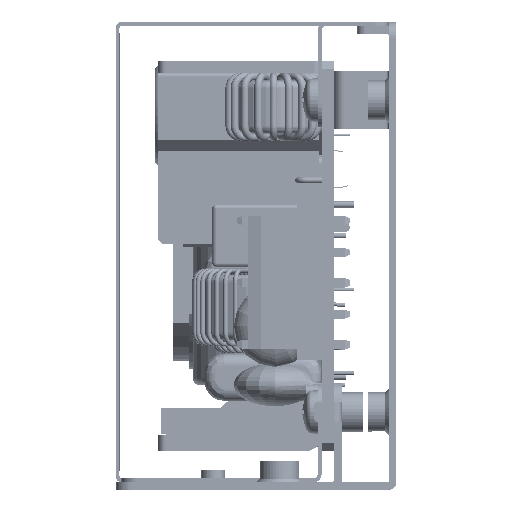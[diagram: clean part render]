
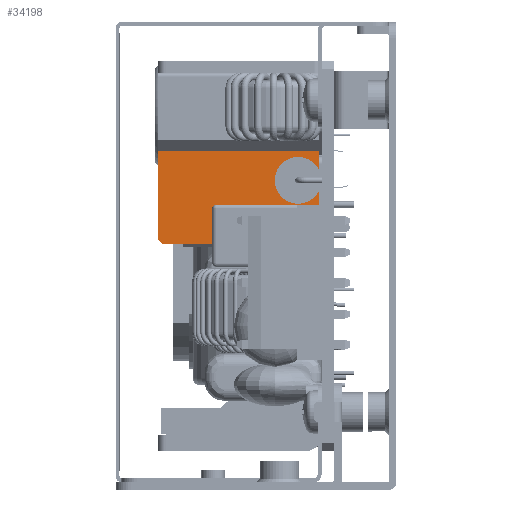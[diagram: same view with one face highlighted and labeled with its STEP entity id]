
A CAD part, left-side view. The second image highlights one B-rep face of the part: STEP entity #34198.
In plain terms, the highlighted planar face has unit normal (-1, 0, 0).
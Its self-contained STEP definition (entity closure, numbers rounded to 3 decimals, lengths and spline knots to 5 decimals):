
#562=DIRECTION('',(0.,0.,1.));
#563=VECTOR('',#562,0.12992);
#564=CARTESIAN_POINT('',(-0.86024,0.37795,
-0.3937));
#565=LINE('',#564,#563);
#9512=DIRECTION('',(0.,1.,0.));
#9513=VECTOR('',#9512,0.01181);
#9514=CARTESIAN_POINT('',(-0.86024,0.37795,
-0.26378));
#9515=LINE('',#9514,#9513);
#9524=CARTESIAN_POINT('',(-0.86024,0.41732,
-0.3937));
#9525=DIRECTION('',(-1.,0.,0.));
#9526=DIRECTION('',(0.,0.,-1.));
#9527=AXIS2_PLACEMENT_3D('',#9524,#9525,#9526);
#9529=DIRECTION('',(0.,-1.,0.));
#9530=VECTOR('',#9529,0.74803);
#9531=CARTESIAN_POINT('',(-0.86024,1.16535,
-0.43307));
#9532=LINE('',#9531,#9530);
#9533=CARTESIAN_POINT('',(-0.86024,1.16535,
-0.3937));
#9534=DIRECTION('',(-1.,0.,0.));
#9535=DIRECTION('',(0.,1.,0.));
#9536=AXIS2_PLACEMENT_3D('',#9533,#9534,#9535);
#9538=DIRECTION('',(0.,0.,-1.));
#9539=VECTOR('',#9538,0.43307);
#9540=CARTESIAN_POINT('',(-0.86024,1.20472,
0.03937));
#9541=LINE('',#9540,#9539);
#9542=DIRECTION('',(0.,0.,1.));
#9543=VECTOR('',#9542,0.30315);
#9544=CARTESIAN_POINT('',(-0.86024,0.38976,
-0.26378));
#9545=LINE('',#9544,#9543);
#9572=DIRECTION('',(0.,-1.,0.));
#9573=VECTOR('',#9572,0.81496);
#9574=CARTESIAN_POINT('',(-0.86024,1.20472,
0.03937));
#9575=LINE('',#9574,#9573);
#19958=CARTESIAN_POINT('',(-0.86024,1.20472,
0.03937));
#19959=VERTEX_POINT('',#19958);
#19960=CARTESIAN_POINT('',(-0.86024,1.20472,
-0.3937));
#19961=VERTEX_POINT('',#19960);
#19984=CARTESIAN_POINT('',(-0.86024,0.38976,
-0.26378));
#19985=VERTEX_POINT('',#19984);
#19986=CARTESIAN_POINT('',(-0.86024,0.38976,
0.03937));
#19987=VERTEX_POINT('',#19986);
#20014=CARTESIAN_POINT('',(-0.86024,0.41732,
-0.43307));
#20015=VERTEX_POINT('',#20014);
#20016=CARTESIAN_POINT('',(-0.86024,1.16535,
-0.43307));
#20017=VERTEX_POINT('',#20016);
#24634=CARTESIAN_POINT('',(-0.86024,0.37795,
-0.3937));
#24635=VERTEX_POINT('',#24634);
#24636=CARTESIAN_POINT('',(-0.86024,0.37795,
-0.26378));
#24637=VERTEX_POINT('',#24636);
#34179=CARTESIAN_POINT('',(-0.86024,0.72047,
-0.19685));
#34180=DIRECTION('',(1.,0.,0.));
#34181=DIRECTION('',(0.,0.,1.));
#34182=AXIS2_PLACEMENT_3D('',#34179,#34180,#34181);
#34183=PLANE('',#34182);
#34184=ORIENTED_EDGE('',*,*,#25665,.F.);
#34186=ORIENTED_EDGE('',*,*,#34185,.F.);
#34188=ORIENTED_EDGE('',*,*,#34187,.F.);
#34190=ORIENTED_EDGE('',*,*,#34189,.F.);
#34191=ORIENTED_EDGE('',*,*,#33943,.F.);
#34193=ORIENTED_EDGE('',*,*,#34192,.T.);
#34194=ORIENTED_EDGE('',*,*,#34023,.F.);
#34195=ORIENTED_EDGE('',*,*,#34172,.F.);
#34196=EDGE_LOOP('',(#34184,#34186,#34188,#34190,#34191,#34193,#34194,#34195));
#34197=FACE_OUTER_BOUND('',#34196,.F.);
#9528=CIRCLE('',#9527,0.03937);
#9537=CIRCLE('',#9536,0.03937);
#25665=EDGE_CURVE('',#24635,#24637,#565,.T.);
#33943=EDGE_CURVE('',#19959,#19961,#9541,.T.);
#34023=EDGE_CURVE('',#19985,#19987,#9545,.T.);
#34172=EDGE_CURVE('',#24637,#19985,#9515,.T.);
#34185=EDGE_CURVE('',#20015,#24635,#9528,.T.);
#34187=EDGE_CURVE('',#20017,#20015,#9532,.T.);
#34189=EDGE_CURVE('',#19961,#20017,#9537,.T.);
#34192=EDGE_CURVE('',#19959,#19987,#9575,.T.);
#34198=ADVANCED_FACE('',(#34197),#34183,.F.);
